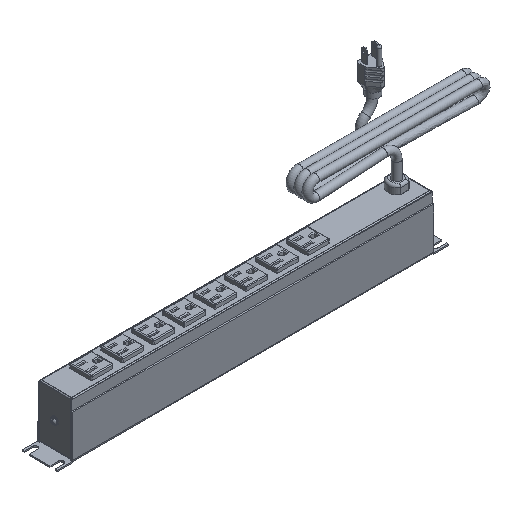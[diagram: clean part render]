
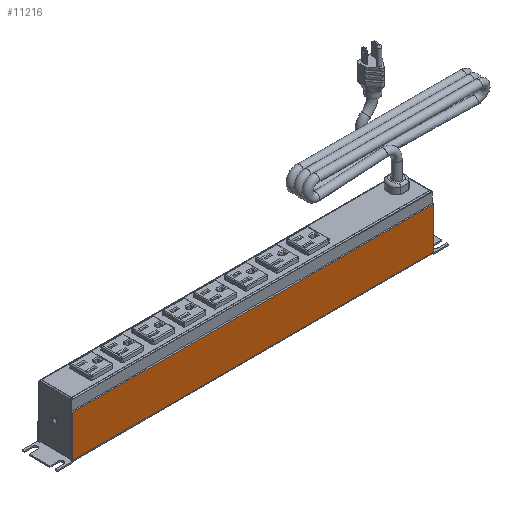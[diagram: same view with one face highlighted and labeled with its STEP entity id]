
A CAD part, isometric view. The second image highlights one B-rep face of the part: STEP entity #11216.
In plain terms, the highlighted planar face has unit normal (0, -1, 0).
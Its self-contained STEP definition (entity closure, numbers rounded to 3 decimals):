
#1208=FACE_OUTER_BOUND('',#1800,.T.);
#1800=EDGE_LOOP('',(#7638,#7639,#7640,#7641));
#2555=LINE('',#15875,#3630);
#2560=LINE('',#15888,#3635);
#2567=LINE('',#15904,#3642);
#2569=LINE('',#15907,#3644);
#3630=VECTOR('',#13022,10.);
#3635=VECTOR('',#13033,1.699);
#3642=VECTOR('',#13052,10.);
#3644=VECTOR('',#13056,10.);
#4699=VERTEX_POINT('',#15873);
#4700=VERTEX_POINT('',#15874);
#4705=VERTEX_POINT('',#15886);
#4708=VERTEX_POINT('',#15903);
#5891=EDGE_CURVE('',#4699,#4700,#2555,.T.);
#5898=EDGE_CURVE('',#4705,#4700,#2560,.T.);
#5907=EDGE_CURVE('',#4699,#4708,#2567,.T.);
#5909=EDGE_CURVE('',#4708,#4705,#2569,.T.);
#7638=ORIENTED_EDGE('',*,*,#5891,.T.);
#7639=ORIENTED_EDGE('',*,*,#5898,.F.);
#7640=ORIENTED_EDGE('',*,*,#5909,.F.);
#7641=ORIENTED_EDGE('',*,*,#5907,.F.);
#10807=PLANE('',#12017);
#11216=ADVANCED_FACE('',(#1208),#10807,.F.);
#12017=AXIS2_PLACEMENT_3D('',#15908,#13057,#13058);
#13022=DIRECTION('',(1.,0.,0.));
#13033=DIRECTION('',(0.,0.,-1.));
#13052=DIRECTION('',(0.,0.,1.));
#13056=DIRECTION('',(1.,0.,0.));
#13057=DIRECTION('center_axis',(0.,1.,0.));
#13058=DIRECTION('ref_axis',(1.,0.,0.));
#15873=CARTESIAN_POINT('',(-222.25,-21.819,2.588));
#15874=CARTESIAN_POINT('',(222.25,-21.819,2.588));
#15875=CARTESIAN_POINT('',(0.,-21.819,2.588));
#15886=CARTESIAN_POINT('',(222.25,-21.819,53.975));
#15888=CARTESIAN_POINT('',(222.25,-21.819,-2.748));
#15903=CARTESIAN_POINT('',(-222.25,-21.819,53.975));
#15904=CARTESIAN_POINT('',(-222.25,-21.819,2.588));
#15907=CARTESIAN_POINT('',(-222.25,-21.819,53.975));
#15908=CARTESIAN_POINT('Origin',(0.,-21.819,26.947));
